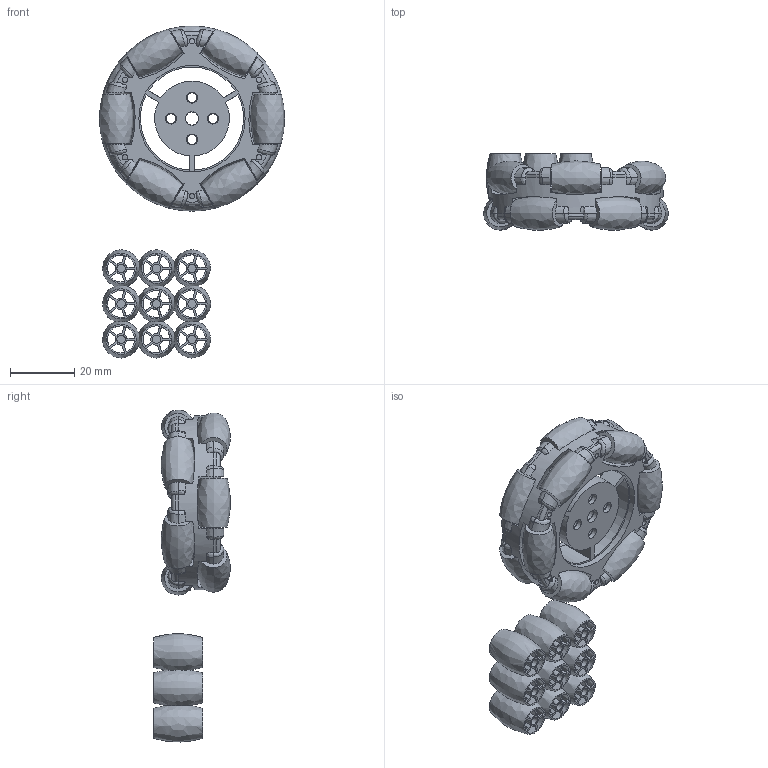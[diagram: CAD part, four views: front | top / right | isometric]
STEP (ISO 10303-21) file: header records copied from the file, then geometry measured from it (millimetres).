
FILE_DESCRIPTION(/* description */ (''),/* implementation_level */ '2;1');
FILE_NAME(/* name */ 'C:/Users/priba/Documents/Temp/WheelOmni12Rollers.step',/* time_stamp */ '2019-11-24T13:25:44+01:00',/* author */ (''),/* organization */ (''),/* preprocessor_version */ 'ST-DEVELOPER v18',/* originating_system */ 'Autodesk Translation Framework v8.12.0.6',/* authorisation */ '');
FILE_SCHEMA (('AUTOMOTIVE_DESIGN { 1 0 10303 214 3 1 1 }'));
Length unit declared in the file: millimetre
Products named in the file (2): WheelOmni12Rollers; WheelHub4mm
Assembly tree (1 placements, depth 2):
  WheelOmni12Rollers
    WheelHub4mm
Bounding box: 57.45 x 23.82 x 103.01 mm (x, y, z)
Volume: 29047.4 mm3; surface area: 35592.8 mm2
Topology: 17 solids, 17 shells, 784 faces, 2372 edges, 1622 vertices
Faces by surface type: plane 400, cylinder 198, bspline 174, torus 12
Full cylindrical faces by diameter (mm): 1.7 x24, 2.6 x21, 3 x4, 3.4 x4, 4 x1, 4.2 x1, 19 x1, 19.5 x1, 33 x2, 54 x1
Entity records: 37281 total; most frequent: CARTESIAN_POINT 16346, ORIENTED_EDGE 4744, DIRECTION 3857, EDGE_CURVE 2372, VERTEX_POINT 1622, AXIS2_PLACEMENT_3D 1419, LINE 1019, VECTOR 1019
